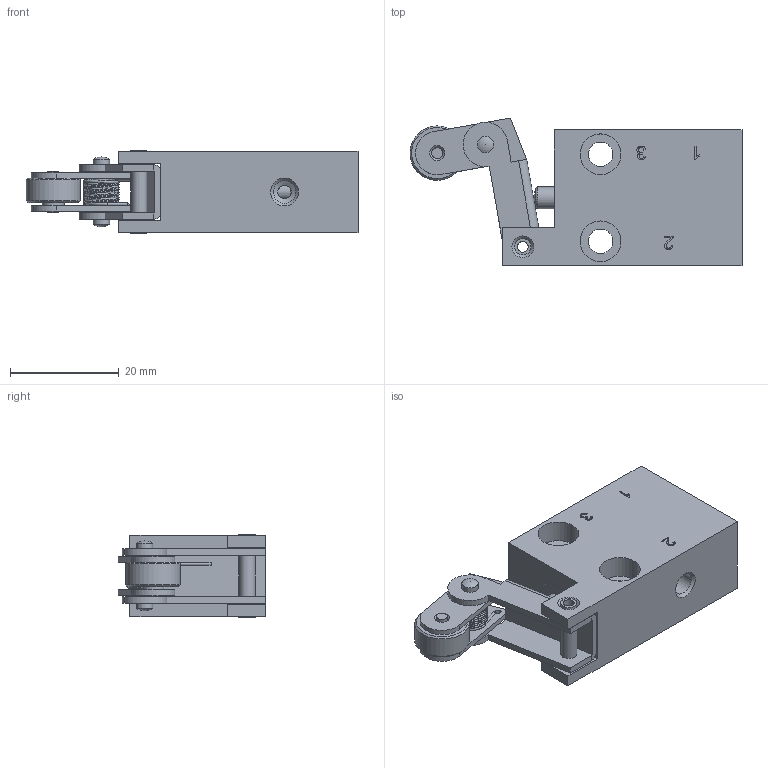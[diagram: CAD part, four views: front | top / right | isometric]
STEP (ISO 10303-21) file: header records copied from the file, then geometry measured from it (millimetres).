
FILE_DESCRIPTION(/* description */ ('Unknown','CAx-IF Rec.Pracs.---Representation and Presentation of Product Manufacturing Information (PMI)---4.0---2014-10-13','CAx-IF Rec.Pracs.---3D Tessellated Geometry---0.4---2014-09-14','2;1'),/* implementation_level */ '2;1');
FILE_NAME(/* name */ 'BL 311 201',/* time_stamp */ '2020-07-03T13:03:56+02:00',/* author */ ('Unknown'),/* organization */ ('Unknown'),/* preprocessor_version */ 'ST-DEVELOPER v16.7',/* originating_system */ 'DEX',/* authorisation */ $);
FILE_SCHEMA (('AP242_MANAGED_MODEL_BASED_3D_ENGINEERING_MIM_LF { 1 0 10303 442 20130219 1 4 }'));
Length unit declared in the file: millimetre
Products named in the file (2): BL 311 201
Assembly tree (1 placements, depth 2):
  BL 311 201
    BL 311 201
Bounding box: 61.03 x 27.17 x 15.2 mm (x, y, z)
Volume: 12393.6 mm3; surface area: 9307.8 mm2
Topology: 12 solids, 12 shells, 224 faces, 559 edges, 369 vertices
Faces by surface type: plane 88, cylinder 61, bspline 49, cone 22, sphere 3, torus 1
Full cylindrical faces by diameter (mm): 0.5 x3, 1 x2, 2 x5, 2.5 x3, 2.8 x1, 3 x10, 4 x4, 4.05 x1, 4.134 x6, 4.5 x2, 5 x1, 6 x1, 7 x1, 7.5 x4, 8 x1, 8.06 x1, 8.08 x1, 10 x1
Entity records: 10609 total; most frequent: CARTESIAN_POINT 4974, ORIENTED_EDGE 900, DIRECTION 847, EDGE_CURVE 450, EDGE_LOOP 356, FACE_BOUND 356, VERTEX_POINT 336, AXIS2_PLACEMENT_3D 321
